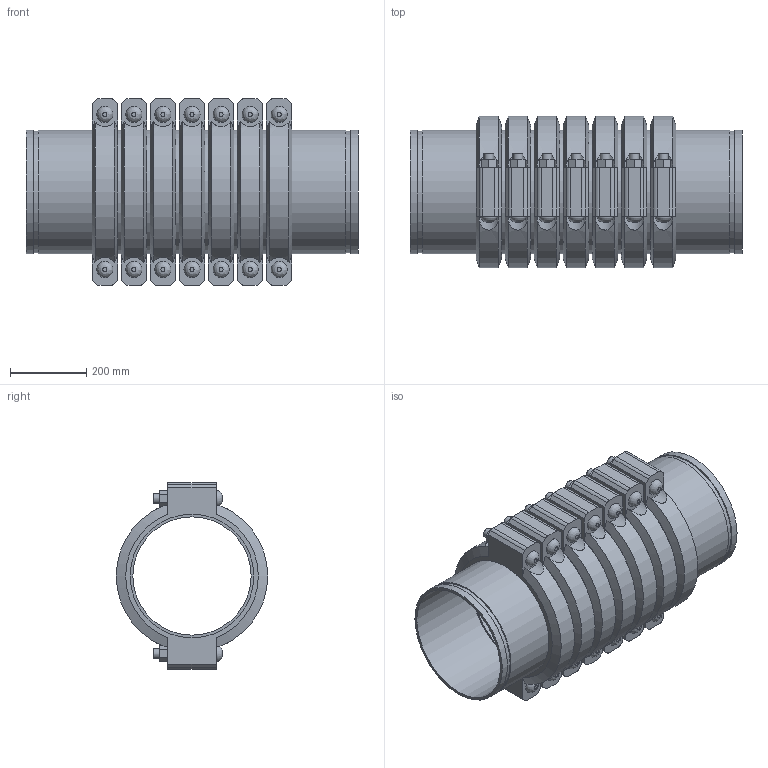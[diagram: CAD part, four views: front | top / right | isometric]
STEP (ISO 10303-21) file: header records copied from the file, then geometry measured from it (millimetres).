
FILE_DESCRIPTION(/* description */ ('VIC EXPANSION JOINT 7 COUPLINGS EXPANDED STYLE 155 (OGS)','CAx-IF Rec.Pracs.---Representation and Presentation of Product Manufacturing Information (PMI)---4.0---2014-10-13'),/* implementation_level */ '2;1');
FILE_NAME(/* name */ 'C:\Users\kkamble\AppData\Roaming\Autodesk\ApplicationPlugins\Victaulic.Temp\A179\Victaulic_IPS_Expansion Joint_Expanded_7 Couplings_Style 155 (OGS)_12 (300).stp',/* time_stamp */ '2021-06-27T00:07:34+02:00',/* author */ ('kkamble'),/* organization */ ('Victaulic'),/* preprocessor_version */ 'ST-DEVELOPER v17.2',/* originating_system */ 'Autodesk Inventor 2019',/* authorisation */ '');
FILE_SCHEMA (('AP242_MANAGED_MODEL_BASED_3D_ENGINEERING_MIM_LF { 1 0 10303 442 1 1 4 }'));
Length unit declared in the file: inch
Products named in the file (4): 155-12.0; Nipple-12.0; Nipple-12.0_1; 077-12.0
Assembly tree (15 placements, depth 2):
  155-12.0
    Nipple-12.0  x2
    Nipple-12.0_1  x6
    077-12.0  x7
Bounding box: 869.95 x 397 x 488.95 mm (x, y, z)
Volume: 29291277.3 mm3; surface area: 4124736 mm2
Topology: 15 solids, 29 shells, 523 faces, 1255 edges, 878 vertices
Faces by surface type: plane 300, cylinder 181, cone 28, bspline 14
Full cylindrical faces by diameter (mm): 25.4 x28, 27.432 x14, 309.677 x8, 314.96 x7, 318.287 x16, 323.85 x38
Entity records: 3089 total; most frequent: CARTESIAN_POINT 663, DIRECTION 485, ORIENTED_EDGE 410, EDGE_CURVE 205, AXIS2_PLACEMENT_3D 198, VERTEX_POINT 146, EDGE_LOOP 111, CIRCLE 96
